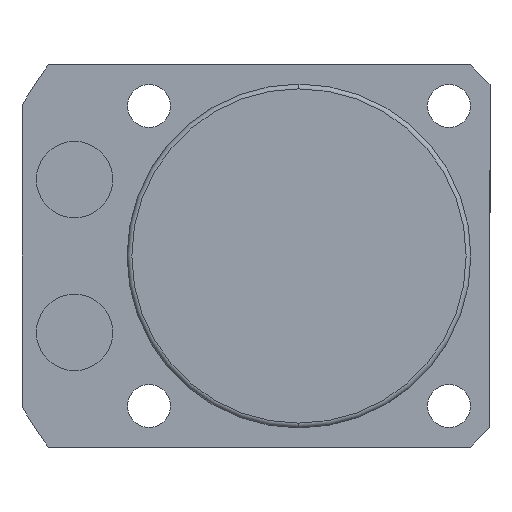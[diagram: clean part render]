
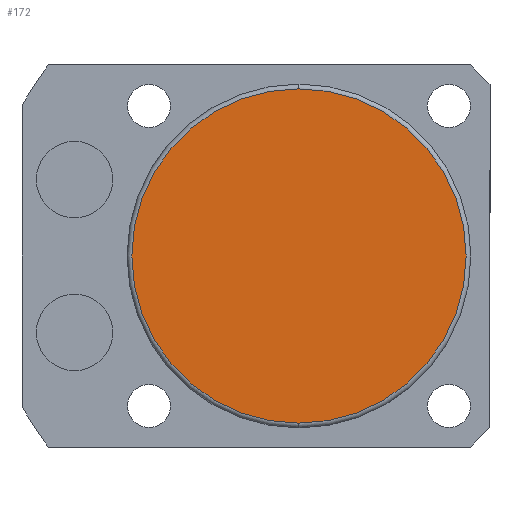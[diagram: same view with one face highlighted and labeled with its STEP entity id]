
A CAD part, front view. The second image highlights one B-rep face of the part: STEP entity #172.
In plain terms, the highlighted planar face has unit normal (0, -1, 0).
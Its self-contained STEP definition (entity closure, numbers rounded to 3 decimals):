
#172 = ADVANCED_FACE ( 'NONE', ( #1224 ), #2083, .T. ) ;
#232 = ORIENTED_EDGE ( 'NONE', *, *, #2221, .T. ) ;
#268 = AXIS2_PLACEMENT_3D ( 'NONE', #1200, #2076, #2105 ) ;
#551 = DIRECTION ( 'NONE',  ( 0., 0., -1. ) ) ;
#604 = CARTESIAN_POINT ( 'NONE',  ( 0., -70.5, 17.5 ) ) ;
#990 = AXIS2_PLACEMENT_3D ( 'NONE', #998, #1588, #2291 ) ;
#994 = CIRCLE ( 'NONE', #1707, 17.5 ) ;
#998 = CARTESIAN_POINT ( 'NONE',  ( 0., -70.5, 0. ) ) ;
#1004 = VERTEX_POINT ( 'NONE', #2331 ) ;
#1200 = CARTESIAN_POINT ( 'NONE',  ( 0., -70.5, 0. ) ) ;
#1221 = CIRCLE ( 'NONE', #990, 17.5 ) ;
#1224 = FACE_OUTER_BOUND ( 'NONE', #1982, .T. ) ;
#1268 = DIRECTION ( 'NONE',  ( 0., -1., 0. ) ) ;
#1588 = DIRECTION ( 'NONE',  ( 0., -1., 0. ) ) ;
#1627 = CARTESIAN_POINT ( 'NONE',  ( 0., -70.5, 0. ) ) ;
#1707 = AXIS2_PLACEMENT_3D ( 'NONE', #1627, #1268, #551 ) ;
#1751 = EDGE_CURVE ( 'NONE', #1004, #2033, #994, .T. ) ;
#1982 = EDGE_LOOP ( 'NONE', ( #2184, #232 ) ) ;
#2033 = VERTEX_POINT ( 'NONE', #604 ) ;
#2076 = DIRECTION ( 'NONE',  ( 0., -1., 0. ) ) ;
#2083 = PLANE ( 'NONE',  #268 ) ;
#2105 = DIRECTION ( 'NONE',  ( 0., 0., -1. ) ) ;
#2184 = ORIENTED_EDGE ( 'NONE', *, *, #1751, .T. ) ;
#2221 = EDGE_CURVE ( 'NONE', #2033, #1004, #1221, .T. ) ;
#2291 = DIRECTION ( 'NONE',  ( 0., 0., -1. ) ) ;
#2331 = CARTESIAN_POINT ( 'NONE',  ( 0., -70.5, -17.5 ) ) ;
